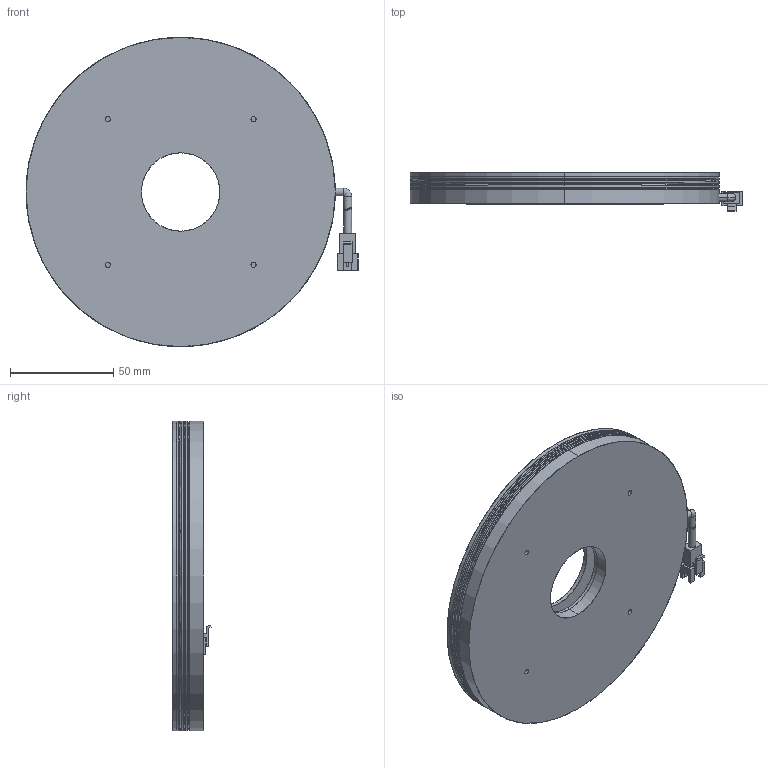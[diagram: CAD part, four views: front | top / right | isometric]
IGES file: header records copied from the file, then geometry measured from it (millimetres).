
Start section: SolidWorks IGES file using analytic representation for surfaces
Global section: file name: E:\SynologyDrive\新款图纸\标准产品\环光\环光00\R15000-38\ED\R15000-38.IGS; native system: SolidWorks 2020; preprocessor: SolidWorks 2020; author: Administrator; date: 200827.093536; units: millimetre
Bounding box: 161 x 18.65 x 150 mm (x, y, z)
Surface area: 111152.6 mm2 (no closed solid volume)
Topology: 0 solids, 0 shells, 605 faces, 6060 edges, 5980 vertices
Faces by surface type: bspline 323, revolution 282
